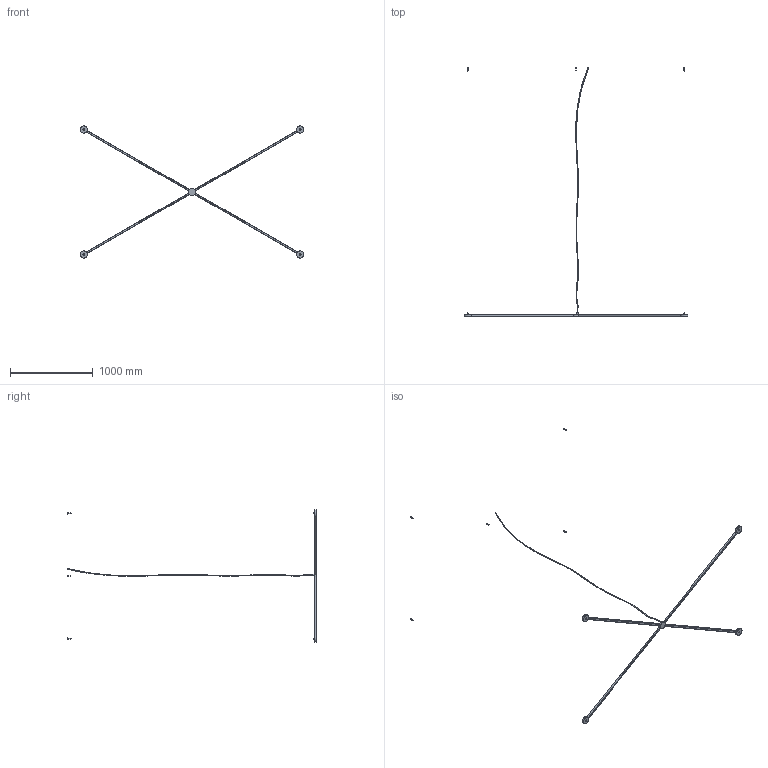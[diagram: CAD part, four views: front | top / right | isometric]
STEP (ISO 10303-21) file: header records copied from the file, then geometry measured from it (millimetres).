
FILE_DESCRIPTION (( 'STEP AP203' ), '1' );
FILE_NAME ('SPPOS0214XXXXXX-PER 3D.STEP', '2026-07-07T18:00:06', ( '' ), ( '' ), 'SwSTEP 2.0', 'SolidWorks 2026', '' );
FILE_SCHEMA (( 'CONFIG_CONTROL_DESIGN' ));
Length unit declared in the file: millimetre
Products named in the file (1): SPPOS0214XXXXXX-PER 3D
Bounding box: 2713.56 x 3012.21 x 1604.5 mm (x, y, z)
Surface area: 753864.6 mm2 (no closed solid volume)
Topology: 0 solids, 102 shells, 225 faces, 2118 edges, 1942 vertices
Faces by surface type: plane 110, cylinder 99, cone 12, bspline 4
Entity records: 24578 total; most frequent: CARTESIAN_POINT 9946, DIRECTION 2682, ORIENTED_EDGE 2324, EDGE_CURVE 2118, VERTEX_POINT 1942, VECTOR 1210, LINE 1210, AXIS2_PLACEMENT_3D 736
